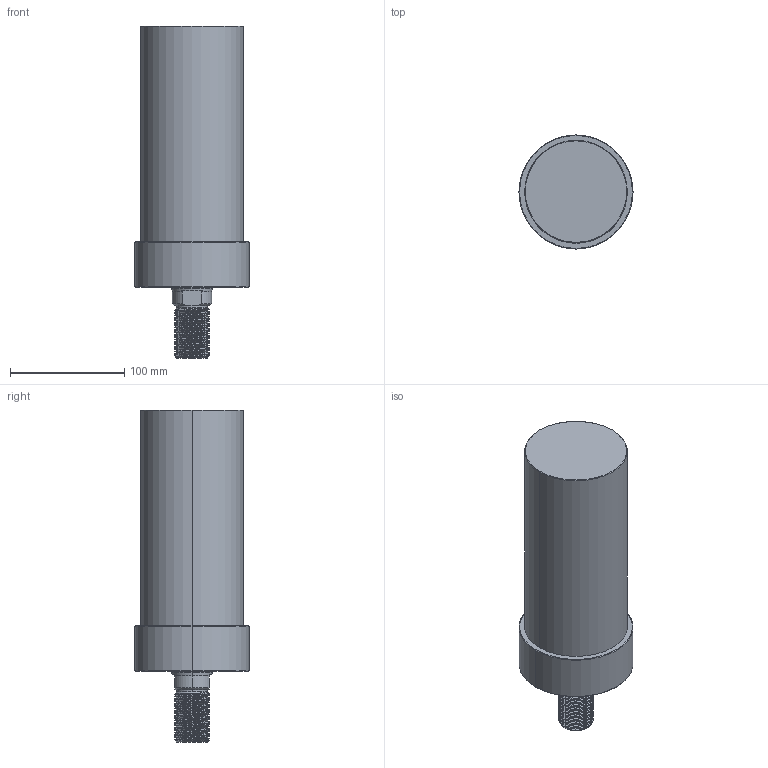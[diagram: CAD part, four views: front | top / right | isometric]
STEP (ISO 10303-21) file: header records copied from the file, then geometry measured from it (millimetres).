
FILE_DESCRIPTION (( 'STEP AP203' ), '1' );
FILE_NAME ('CLLU-090GT-145.STEP', '2020-01-15T01:35:01', ( '' ), ( '' ), 'SwSTEP 2.0', 'SolidWorks 2015', '' );
FILE_SCHEMA (( 'CONFIG_CONTROL_DESIGN' ));
Length unit declared in the file: millimetre
Products named in the file (1): CLLU-090GT-145
Bounding box: 100 x 100 x 291 mm (x, y, z)
Volume: 1554317.6 mm3; surface area: 93693 mm2
Topology: 1 solids, 1 shells, 125 faces, 326 edges, 204 vertices
Faces by surface type: cylinder 79, cone 26, plane 12, torus 6, bspline 2
Entity records: 7191 total; most frequent: CARTESIAN_POINT 4402, ORIENTED_EDGE 636, DIRECTION 515, EDGE_CURVE 318, VERTEX_POINT 204, AXIS2_PLACEMENT_3D 202, EDGE_LOOP 134, FACE_OUTER_BOUND 125
